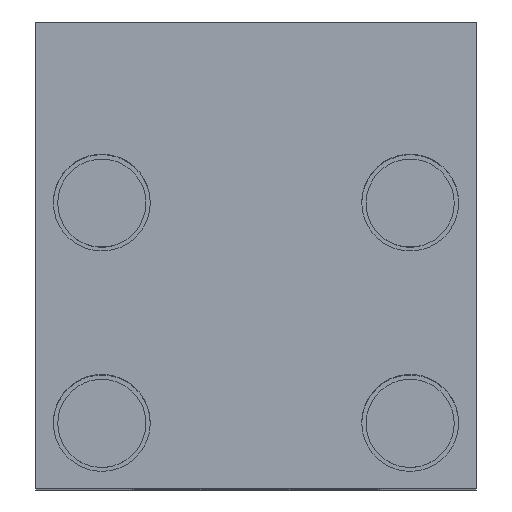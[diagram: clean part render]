
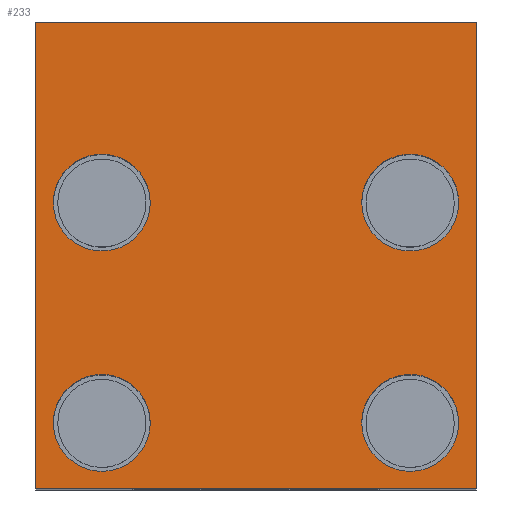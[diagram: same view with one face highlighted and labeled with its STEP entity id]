
A CAD part, top view. The second image highlights one B-rep face of the part: STEP entity #233.
In plain terms, the highlighted planar face has unit normal (0, 0, 1).
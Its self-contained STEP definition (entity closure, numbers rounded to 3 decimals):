
#233=ADVANCED_FACE('Pad.1',(#528,#529,#530,#531,#532),#533,.F.);
#528=FACE_OUTER_BOUND('',#927,.T.);
#529=FACE_BOUND('',#928,.T.);
#530=FACE_BOUND('',#929,.T.);
#531=FACE_BOUND('',#930,.T.);
#532=FACE_BOUND('',#931,.T.);
#533=PLANE('',#932);
#927=EDGE_LOOP('',(#1467,#1468,#1469,#1470));
#928=EDGE_LOOP('',(#1471,#1472,#1473,#1474));
#929=EDGE_LOOP('',(#1475,#1476,#1477,#1478));
#930=EDGE_LOOP('',(#1479,#1480,#1481,#1482));
#931=EDGE_LOOP('',(#1483,#1484,#1485,#1486));
#932=AXIS2_PLACEMENT_3D('',#1487,#1488,#1489);
#1467=ORIENTED_EDGE('',*,*,#2426,.F.);
#1468=ORIENTED_EDGE('',*,*,#2429,.T.);
#1469=ORIENTED_EDGE('',*,*,#2430,.T.);
#1470=ORIENTED_EDGE('',*,*,#2412,.F.);
#1471=ORIENTED_EDGE('',*,*,#2431,.T.);
#1472=ORIENTED_EDGE('',*,*,#2389,.T.);
#1473=ORIENTED_EDGE('',*,*,#2397,.T.);
#1474=ORIENTED_EDGE('',*,*,#2432,.T.);
#1475=ORIENTED_EDGE('',*,*,#2433,.T.);
#1476=ORIENTED_EDGE('',*,*,#2356,.T.);
#1477=ORIENTED_EDGE('',*,*,#2341,.T.);
#1478=ORIENTED_EDGE('',*,*,#2434,.T.);
#1479=ORIENTED_EDGE('',*,*,#2435,.T.);
#1480=ORIENTED_EDGE('',*,*,#2297,.T.);
#1481=ORIENTED_EDGE('',*,*,#2308,.T.);
#1482=ORIENTED_EDGE('',*,*,#2436,.T.);
#1483=ORIENTED_EDGE('',*,*,#2437,.T.);
#1484=ORIENTED_EDGE('',*,*,#2302,.T.);
#1485=ORIENTED_EDGE('',*,*,#2315,.T.);
#1486=ORIENTED_EDGE('',*,*,#2438,.T.);
#1487=CARTESIAN_POINT('',(0.0,-37.0,16.0));
#1488=DIRECTION('',(0.0,0.0,-1.0));
#1489=DIRECTION('',(0.0,1.0,0.0));
#2297=EDGE_CURVE('',#2727,#2731,#2733,.T.);
#2302=EDGE_CURVE('',#2736,#2740,#2742,.T.);
#2308=EDGE_CURVE('',#2731,#2750,#2753,.T.);
#2315=EDGE_CURVE('',#2740,#2762,#2765,.T.);
#2341=EDGE_CURVE('',#2807,#2804,#2808,.T.);
#2356=EDGE_CURVE('',#2832,#2807,#2833,.T.);
#2389=EDGE_CURVE('',#2884,#2888,#2890,.T.);
#2397=EDGE_CURVE('',#2888,#2901,#2903,.T.);
#2412=EDGE_CURVE('',#2924,#2926,#2927,.F.);
#2426=EDGE_CURVE('',#2950,#2924,#2952,.T.);
#2429=EDGE_CURVE('',#2950,#2955,#2956,.F.);
#2430=EDGE_CURVE('',#2955,#2926,#2957,.T.);
#2431=EDGE_CURVE('',#2958,#2884,#2959,.T.);
#2432=EDGE_CURVE('',#2901,#2958,#2960,.T.);
#2433=EDGE_CURVE('',#2961,#2832,#2962,.T.);
#2434=EDGE_CURVE('',#2804,#2961,#2963,.T.);
#2435=EDGE_CURVE('',#2964,#2727,#2965,.T.);
#2436=EDGE_CURVE('',#2750,#2964,#2966,.T.);
#2437=EDGE_CURVE('',#2967,#2736,#2968,.T.);
#2438=EDGE_CURVE('',#2762,#2967,#2969,.T.);
#2727=VERTEX_POINT('',#3353);
#2731=VERTEX_POINT('',#3358);
#2733=CIRCLE('',#3361,5.5);
#2736=VERTEX_POINT('',#3364);
#2740=VERTEX_POINT('',#3369);
#2742=CIRCLE('',#3372,5.5);
#2750=VERTEX_POINT('',#3403);
#2753=CIRCLE('',#3407,5.5);
#2762=VERTEX_POINT('',#3439);
#2765=CIRCLE('',#3443,5.5);
#2804=VERTEX_POINT('',#3524);
#2807=VERTEX_POINT('',#3528);
#2808=CIRCLE('',#3529,5.5);
#2832=VERTEX_POINT('',#3558);
#2833=CIRCLE('',#3559,5.5);
#2884=VERTEX_POINT('',#3750);
#2888=VERTEX_POINT('',#3755);
#2890=CIRCLE('',#3758,5.5);
#2901=VERTEX_POINT('',#3788);
#2903=CIRCLE('',#3791,5.5);
#2924=VERTEX_POINT('',#3838);
#2926=VERTEX_POINT('',#3841);
#2927=LINE('',#3842,#3843);
#2950=VERTEX_POINT('',#3874);
#2952=LINE('',#3877,#3878);
#2955=VERTEX_POINT('',#3882);
#2956=LINE('',#3883,#3884);
#2957=LINE('',#3885,#3886);
#2958=VERTEX_POINT('',#3887);
#2959=CIRCLE('',#3888,5.5);
#2960=CIRCLE('',#3889,5.5);
#2961=VERTEX_POINT('',#3890);
#2962=CIRCLE('',#3891,5.5);
#2963=CIRCLE('',#3892,5.5);
#2964=VERTEX_POINT('',#3893);
#2965=CIRCLE('',#3894,5.5);
#2966=CIRCLE('',#3895,5.5);
#2967=VERTEX_POINT('',#3896);
#2968=CIRCLE('',#3897,5.5);
#2969=CIRCLE('',#3898,5.5);
#3353=CARTESIAN_POINT('',(-23.0,-4.5,16.0));
#3358=CARTESIAN_POINT('',(-22.327,-1.863,16.0));
#3361=AXIS2_PLACEMENT_3D('',#4440,#4441,#4442);
#3364=CARTESIAN_POINT('',(12.0,-4.5,16.0));
#3369=CARTESIAN_POINT('',(12.673,-1.863,16.0));
#3372=AXIS2_PLACEMENT_3D('',#4448,#4449,#4450);
#3403=CARTESIAN_POINT('',(-12.0,-4.5,16.0));
#3407=AXIS2_PLACEMENT_3D('',#4453,#4454,#4455);
#3439=CARTESIAN_POINT('',(23.0,-4.5,16.0));
#3443=AXIS2_PLACEMENT_3D('',#4461,#4462,#4463);
#3524=CARTESIAN_POINT('',(23.0,-29.5,16.0));
#3528=CARTESIAN_POINT('',(12.673,-26.863,16.0));
#3529=AXIS2_PLACEMENT_3D('',#4500,#4501,#4502);
#3558=CARTESIAN_POINT('',(12.0,-29.5,16.0));
#3559=AXIS2_PLACEMENT_3D('',#4526,#4527,#4528);
#3750=CARTESIAN_POINT('',(-23.0,-29.5,16.0));
#3755=CARTESIAN_POINT('',(-22.327,-26.863,16.0));
#3758=AXIS2_PLACEMENT_3D('',#4564,#4565,#4566);
#3788=CARTESIAN_POINT('',(-12.0,-29.5,16.0));
#3791=AXIS2_PLACEMENT_3D('',#4573,#4574,#4575);
#3838=CARTESIAN_POINT('',(25.0,16.0,16.0));
#3841=CARTESIAN_POINT('',(25.0,-37.0,16.0));
#3842=CARTESIAN_POINT('',(25.0,-10.5,16.0));
#3843=VECTOR('',#4591,1.0);
#3874=CARTESIAN_POINT('',(-25.0,16.0,16.0));
#3877=CARTESIAN_POINT('',(0.0,16.0,16.0));
#3878=VECTOR('',#4610,1.0);
#3882=CARTESIAN_POINT('',(-25.0,-37.0,16.0));
#3883=CARTESIAN_POINT('',(-25.0,-10.5,16.0));
#3884=VECTOR('',#4612,1.0);
#3885=CARTESIAN_POINT('',(0.0,-37.0,16.0));
#3886=VECTOR('',#4613,1.0);
#3887=CARTESIAN_POINT('',(-12.673,-32.137,16.0));
#3888=AXIS2_PLACEMENT_3D('',#4614,#4615,#4616);
#3889=AXIS2_PLACEMENT_3D('',#4617,#4618,#4619);
#3890=CARTESIAN_POINT('',(22.327,-32.137,16.0));
#3891=AXIS2_PLACEMENT_3D('',#4620,#4621,#4622);
#3892=AXIS2_PLACEMENT_3D('',#4623,#4624,#4625);
#3893=CARTESIAN_POINT('',(-12.673,-7.137,16.0));
#3894=AXIS2_PLACEMENT_3D('',#4626,#4627,#4628);
#3895=AXIS2_PLACEMENT_3D('',#4629,#4630,#4631);
#3896=CARTESIAN_POINT('',(22.327,-7.137,16.0));
#3897=AXIS2_PLACEMENT_3D('',#4632,#4633,#4634);
#3898=AXIS2_PLACEMENT_3D('',#4635,#4636,#4637);
#4440=CARTESIAN_POINT('',(-17.5,-4.5,16.0));
#4441=DIRECTION('',(0.0,0.0,-1.0));
#4442=DIRECTION('',(0.0,1.0,0.0));
#4448=CARTESIAN_POINT('',(17.5,-4.5,16.0));
#4449=DIRECTION('',(0.0,0.0,-1.0));
#4450=DIRECTION('',(0.0,1.0,0.0));
#4453=CARTESIAN_POINT('',(-17.5,-4.5,16.0));
#4454=DIRECTION('',(0.0,0.0,-1.0));
#4455=DIRECTION('',(0.0,1.0,0.0));
#4461=CARTESIAN_POINT('',(17.5,-4.5,16.0));
#4462=DIRECTION('',(0.0,0.0,-1.0));
#4463=DIRECTION('',(0.0,1.0,0.0));
#4500=CARTESIAN_POINT('',(17.5,-29.5,16.0));
#4501=DIRECTION('',(0.0,0.0,-1.0));
#4502=DIRECTION('',(0.0,1.0,0.0));
#4526=CARTESIAN_POINT('',(17.5,-29.5,16.0));
#4527=DIRECTION('',(0.0,0.0,-1.0));
#4528=DIRECTION('',(0.0,1.0,0.0));
#4564=CARTESIAN_POINT('',(-17.5,-29.5,16.0));
#4565=DIRECTION('',(0.0,0.0,-1.0));
#4566=DIRECTION('',(0.0,1.0,0.0));
#4573=CARTESIAN_POINT('',(-17.5,-29.5,16.0));
#4574=DIRECTION('',(0.0,0.0,-1.0));
#4575=DIRECTION('',(0.0,1.0,0.0));
#4591=DIRECTION('',(0.0,1.0,0.0));
#4610=DIRECTION('',(1.0,0.0,0.0));
#4612=DIRECTION('',(0.0,1.0,0.0));
#4613=DIRECTION('',(1.0,0.0,0.0));
#4614=CARTESIAN_POINT('',(-17.5,-29.5,16.0));
#4615=DIRECTION('',(0.0,0.0,-1.0));
#4616=DIRECTION('',(0.0,1.0,0.0));
#4617=CARTESIAN_POINT('',(-17.5,-29.5,16.0));
#4618=DIRECTION('',(0.0,0.0,-1.0));
#4619=DIRECTION('',(0.0,1.0,0.0));
#4620=CARTESIAN_POINT('',(17.5,-29.5,16.0));
#4621=DIRECTION('',(0.0,0.0,-1.0));
#4622=DIRECTION('',(0.0,1.0,0.0));
#4623=CARTESIAN_POINT('',(17.5,-29.5,16.0));
#4624=DIRECTION('',(0.0,0.0,-1.0));
#4625=DIRECTION('',(0.0,1.0,0.0));
#4626=CARTESIAN_POINT('',(-17.5,-4.5,16.0));
#4627=DIRECTION('',(0.0,0.0,-1.0));
#4628=DIRECTION('',(0.0,1.0,0.0));
#4629=CARTESIAN_POINT('',(-17.5,-4.5,16.0));
#4630=DIRECTION('',(0.0,0.0,-1.0));
#4631=DIRECTION('',(0.0,1.0,0.0));
#4632=CARTESIAN_POINT('',(17.5,-4.5,16.0));
#4633=DIRECTION('',(0.0,0.0,-1.0));
#4634=DIRECTION('',(0.0,1.0,0.0));
#4635=CARTESIAN_POINT('',(17.5,-4.5,16.0));
#4636=DIRECTION('',(0.0,0.0,-1.0));
#4637=DIRECTION('',(0.0,1.0,0.0));
